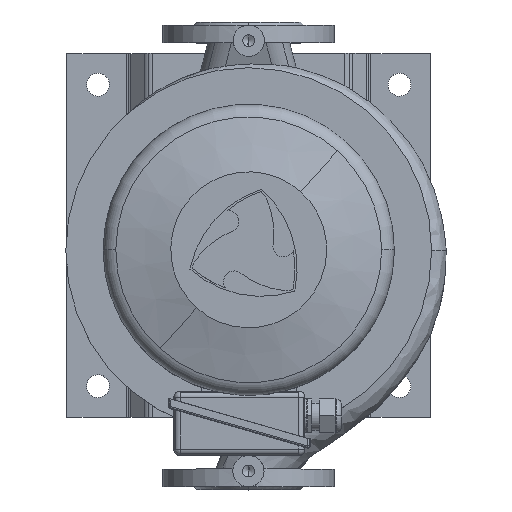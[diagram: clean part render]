
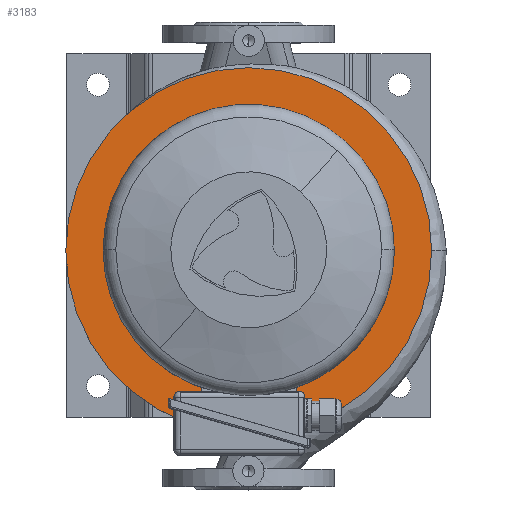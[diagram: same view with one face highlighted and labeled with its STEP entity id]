
A CAD part, top view. The second image highlights one B-rep face of the part: STEP entity #3183.
In plain terms, the highlighted planar face has unit normal (0, 0, 1) as drawn and (1, 0, 0) by its records, which use the part's own axes.
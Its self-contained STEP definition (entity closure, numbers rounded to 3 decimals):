
#3183=ADVANCED_FACE('',(#7992,#7993),#7994,.T.);
#3207=EDGE_CURVE('',#8033,#8034,#8035,.T.);
#3231=EDGE_CURVE('',#8077,#8078,#8079,.T.);
#3239=EDGE_CURVE('',#8087,#8090,#8091,.T.);
#3247=EDGE_CURVE('',#8099,#8102,#8103,.T.);
#3253=EDGE_CURVE('',#8106,#8078,#8111,.T.);
#3255=EDGE_CURVE('',#8113,#8090,#8114,.T.);
#3263=EDGE_CURVE('',#8125,#8121,#8126,.T.);
#3271=EDGE_CURVE('',#8136,#8132,#8137,.T.);
#3279=EDGE_CURVE('',#8143,#8146,#8147,.T.);
#3289=EDGE_CURVE('',#8157,#8087,#8160,.T.);
#3295=EDGE_CURVE('',#8165,#8099,#8168,.T.);
#3303=EDGE_CURVE('',#8176,#8171,#8179,.T.);
#3305=EDGE_CURVE('',#8102,#8121,#8181,.T.);
#3309=EDGE_CURVE('',#8171,#8132,#8185,.T.);
#3313=EDGE_CURVE('',#8146,#8077,#8189,.T.);
#3317=EDGE_CURVE('',#8113,#8165,#8193,.T.);
#3321=EDGE_CURVE('',#8125,#8176,#8197,.T.);
#3323=EDGE_CURVE('',#8106,#8157,#8199,.T.);
#3327=EDGE_CURVE('',#8034,#8033,#8203,.T.);
#3329=EDGE_CURVE('',#8136,#8143,#8205,.T.);
#7992=FACE_OUTER_BOUND('',#16788,.T.);
#7993=FACE_BOUND('',#16789,.T.);
#7994=PLANE('',#16790);
#8033=VERTEX_POINT('',#16831);
#8034=VERTEX_POINT('',#16832);
#8035=CIRCLE('',#16833,176.0);
#8077=VERTEX_POINT('',#16887);
#8078=VERTEX_POINT('',#16888);
#8079=CIRCLE('',#16889,117.907);
#8087=VERTEX_POINT('',#16909);
#8090=VERTEX_POINT('',#16922);
#8091=CIRCLE('',#16923,117.907);
#8099=VERTEX_POINT('',#16943);
#8102=VERTEX_POINT('',#16956);
#8103=CIRCLE('',#16957,117.907);
#8106=VERTEX_POINT('',#16961);
#8111=LINE('',#16978,#16979);
#8113=VERTEX_POINT('',#16982);
#8114=LINE('',#16983,#16984);
#8121=VERTEX_POINT('',#17004);
#8125=VERTEX_POINT('',#17018);
#8126=LINE('',#17019,#17020);
#8132=VERTEX_POINT('',#17039);
#8136=VERTEX_POINT('',#17053);
#8137=LINE('',#17054,#17055);
#8143=VERTEX_POINT('',#17074);
#8146=VERTEX_POINT('',#17087);
#8147=LINE('',#17088,#17089);
#8157=VERTEX_POINT('',#17114);
#8160=LINE('',#17127,#17128);
#8165=VERTEX_POINT('',#17136);
#8168=LINE('',#17149,#17150);
#8171=VERTEX_POINT('',#17154);
#8176=VERTEX_POINT('',#17171);
#8179=LINE('',#17184,#17185);
#8181=CIRCLE('',#17188,117.907);
#8185=CIRCLE('',#17194,117.907);
#8189=CIRCLE('',#17200,117.907);
#8193=CIRCLE('',#17206,128.0);
#8197=CIRCLE('',#17212,128.0);
#8199=CIRCLE('',#17215,128.0);
#8203=CIRCLE('',#17221,176.0);
#8205=CIRCLE('',#17224,128.0);
#16788=EDGE_LOOP('',(#29668,#29669));
#16789=EDGE_LOOP('',(#29670,#29671,#29672,#29673,#29674,#29675,#29676,#29677,#29678,#29679,#29680,#29681,#29682,#29683,#29684,#29685,#29686,#29687));
#16790=AXIS2_PLACEMENT_3D('',#29688,#29689,#29690);
#16831=CARTESIAN_POINT('',(19.0,176.0,0.0));
#16832=CARTESIAN_POINT('',(19.0,-176.0,0.));
#16833=AXIS2_PLACEMENT_3D('',#29790,#29791,#29792);
#16887=CARTESIAN_POINT('',(19.0,-117.907,0.));
#16888=CARTESIAN_POINT('',(19.0,-105.762,-52.12));
#16889=AXIS2_PLACEMENT_3D('',#29826,#29827,#29828);
#16909=CARTESIAN_POINT('',(19.0,-52.12,-105.762));
#16922=CARTESIAN_POINT('',(19.0,52.12,-105.762));
#16923=AXIS2_PLACEMENT_3D('',#29832,#29833,#29834);
#16943=CARTESIAN_POINT('',(19.0,105.762,-52.12));
#16956=CARTESIAN_POINT('',(19.0,117.907,0.));
#16957=AXIS2_PLACEMENT_3D('',#29838,#29839,#29840);
#16961=CARTESIAN_POINT('',(19.0,-115.686,-54.779));
#16978=CARTESIAN_POINT('',(19.0,-115.686,-54.779));
#16979=VECTOR('',#29842,1.0);
#16982=CARTESIAN_POINT('',(19.0,54.779,-115.686));
#16983=CARTESIAN_POINT('',(19.0,54.779,-115.686));
#16984=VECTOR('',#29843,1.0);
#17004=CARTESIAN_POINT('',(19.0,105.762,52.12));
#17018=CARTESIAN_POINT('',(19.0,115.686,54.779));
#17019=CARTESIAN_POINT('',(19.0,115.686,54.779));
#17020=VECTOR('',#29845,1.0);
#17039=CARTESIAN_POINT('',(19.0,-52.12,105.762));
#17053=CARTESIAN_POINT('',(19.0,-54.779,115.686));
#17054=CARTESIAN_POINT('',(19.0,-54.779,115.686));
#17055=VECTOR('',#29847,1.0);
#17074=CARTESIAN_POINT('',(19.0,-115.686,54.779));
#17087=CARTESIAN_POINT('',(19.0,-105.762,52.12));
#17088=CARTESIAN_POINT('',(19.0,-115.686,54.779));
#17089=VECTOR('',#29849,1.0);
#17114=CARTESIAN_POINT('',(19.0,-54.779,-115.686));
#17127=CARTESIAN_POINT('',(19.0,-54.779,-115.686));
#17128=VECTOR('',#29852,1.0);
#17136=CARTESIAN_POINT('',(19.0,115.686,-54.779));
#17149=CARTESIAN_POINT('',(19.0,115.686,-54.779));
#17150=VECTOR('',#29854,1.0);
#17154=CARTESIAN_POINT('',(19.0,52.12,105.762));
#17171=CARTESIAN_POINT('',(19.0,54.779,115.686));
#17184=CARTESIAN_POINT('',(19.0,54.779,115.686));
#17185=VECTOR('',#29856,1.0);
#17188=AXIS2_PLACEMENT_3D('',#29857,#29858,#29859);
#17194=AXIS2_PLACEMENT_3D('',#29863,#29864,#29865);
#17200=AXIS2_PLACEMENT_3D('',#29869,#29870,#29871);
#17206=AXIS2_PLACEMENT_3D('',#29875,#29876,#29877);
#17212=AXIS2_PLACEMENT_3D('',#29881,#29882,#29883);
#17215=AXIS2_PLACEMENT_3D('',#29884,#29885,#29886);
#17221=AXIS2_PLACEMENT_3D('',#29890,#29891,#29892);
#17224=AXIS2_PLACEMENT_3D('',#29893,#29894,#29895);
#29668=ORIENTED_EDGE('',*,*,#3207,.T.);
#29669=ORIENTED_EDGE('',*,*,#3327,.T.);
#29670=ORIENTED_EDGE('',*,*,#3329,.F.);
#29671=ORIENTED_EDGE('',*,*,#3271,.T.);
#29672=ORIENTED_EDGE('',*,*,#3309,.F.);
#29673=ORIENTED_EDGE('',*,*,#3303,.F.);
#29674=ORIENTED_EDGE('',*,*,#3321,.F.);
#29675=ORIENTED_EDGE('',*,*,#3263,.T.);
#29676=ORIENTED_EDGE('',*,*,#3305,.F.);
#29677=ORIENTED_EDGE('',*,*,#3247,.F.);
#29678=ORIENTED_EDGE('',*,*,#3295,.F.);
#29679=ORIENTED_EDGE('',*,*,#3317,.F.);
#29680=ORIENTED_EDGE('',*,*,#3255,.T.);
#29681=ORIENTED_EDGE('',*,*,#3239,.F.);
#29682=ORIENTED_EDGE('',*,*,#3289,.F.);
#29683=ORIENTED_EDGE('',*,*,#3323,.F.);
#29684=ORIENTED_EDGE('',*,*,#3253,.T.);
#29685=ORIENTED_EDGE('',*,*,#3231,.F.);
#29686=ORIENTED_EDGE('',*,*,#3313,.F.);
#29687=ORIENTED_EDGE('',*,*,#3279,.F.);
#29688=CARTESIAN_POINT('',(19.0,152.0,0.0));
#29689=DIRECTION('',(1.0,0.0,0.0));
#29690=DIRECTION('',(0.0,0.0,-1.0));
#29790=CARTESIAN_POINT('',(19.0,0.0,0.0));
#29791=DIRECTION('',(1.0,0.0,0.0));
#29792=DIRECTION('',(0.0,1.0,0.0));
#29826=CARTESIAN_POINT('',(19.0,0.0,0.0));
#29827=DIRECTION('',(1.0,0.0,0.0));
#29828=DIRECTION('',(0.0,1.0,0.0));
#29832=CARTESIAN_POINT('',(19.0,0.0,0.0));
#29833=DIRECTION('',(1.0,0.0,0.0));
#29834=DIRECTION('',(0.0,1.0,0.0));
#29838=CARTESIAN_POINT('',(19.0,0.0,0.0));
#29839=DIRECTION('',(1.0,0.0,0.0));
#29840=DIRECTION('',(0.0,1.0,0.0));
#29842=DIRECTION('',(0.,0.966,0.259));
#29843=DIRECTION('',(0.,-0.259,0.966));
#29845=DIRECTION('',(0.,-0.966,-0.259));
#29847=DIRECTION('',(0.,0.259,-0.966));
#29849=DIRECTION('',(0.,0.966,-0.259));
#29852=DIRECTION('',(0.,0.259,0.966));
#29854=DIRECTION('',(0.,-0.966,0.259));
#29856=DIRECTION('',(0.,-0.259,-0.966));
#29857=CARTESIAN_POINT('',(19.0,0.0,0.0));
#29858=DIRECTION('',(1.0,0.0,0.0));
#29859=DIRECTION('',(0.0,1.0,0.0));
#29863=CARTESIAN_POINT('',(19.0,0.0,0.0));
#29864=DIRECTION('',(1.0,0.0,0.0));
#29865=DIRECTION('',(0.0,1.0,0.0));
#29869=CARTESIAN_POINT('',(19.0,0.0,0.0));
#29870=DIRECTION('',(1.0,0.0,0.0));
#29871=DIRECTION('',(0.0,1.0,0.0));
#29875=CARTESIAN_POINT('',(19.0,0.0,0.0));
#29876=DIRECTION('',(1.0,0.0,0.0));
#29877=DIRECTION('',(0.0,1.0,0.0));
#29881=CARTESIAN_POINT('',(19.0,0.0,0.0));
#29882=DIRECTION('',(1.0,0.0,0.0));
#29883=DIRECTION('',(0.0,1.0,0.0));
#29884=CARTESIAN_POINT('',(19.0,0.0,0.0));
#29885=DIRECTION('',(1.0,0.0,0.0));
#29886=DIRECTION('',(0.0,1.0,0.0));
#29890=CARTESIAN_POINT('',(19.0,0.0,0.0));
#29891=DIRECTION('',(1.0,0.0,0.0));
#29892=DIRECTION('',(0.0,1.0,0.0));
#29893=CARTESIAN_POINT('',(19.0,0.0,0.0));
#29894=DIRECTION('',(1.0,0.0,0.0));
#29895=DIRECTION('',(0.0,1.0,0.0));
